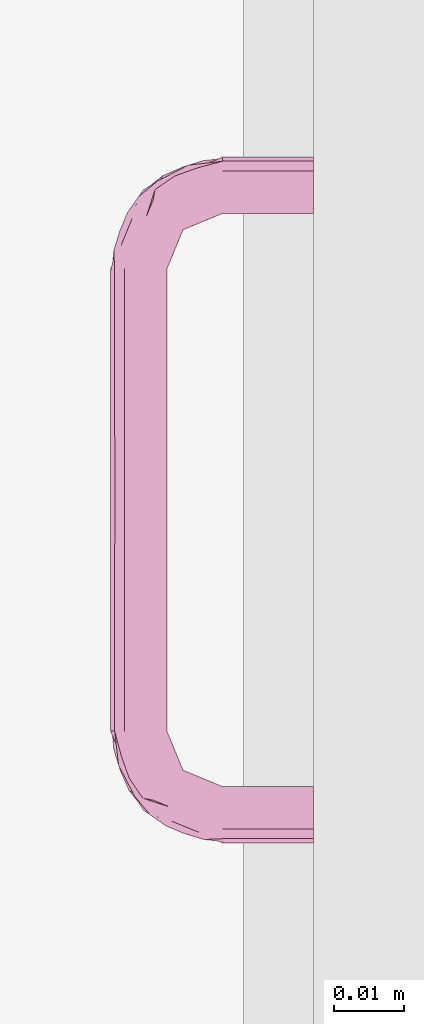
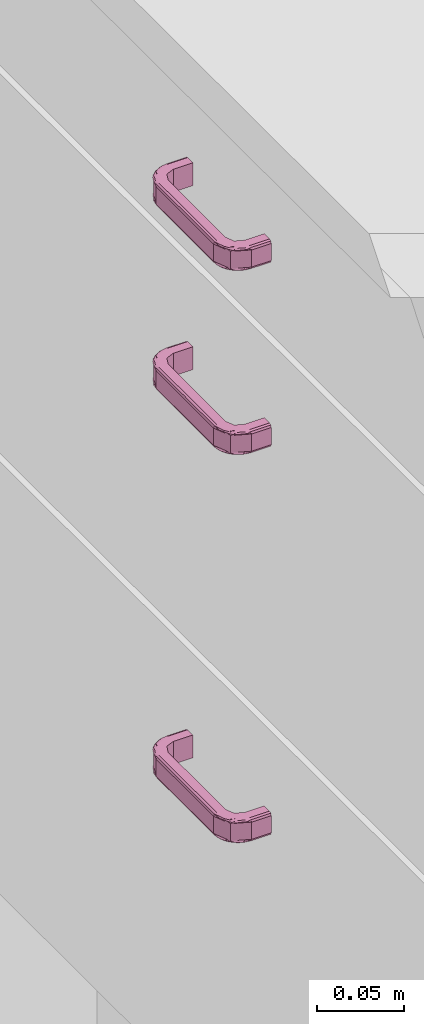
# One storey, part 59 of 65: 3 furnishings.
"""IFC2X3 building model written with IfcOpenShell, lengths in millimetres."""

from ifc_helpers import new_model, entity, si_unit, converted_unit, direction, frame, origin, place, context, subcontext, project, spatial, faceted_brep, source, transform, mapped, material, type_object, type_shapes, element, save


model = new_model("IFC2X3")

# Units and contexts
model_context = context("Model", 3, precision=0.01, world=origin(), true_north=direction((0.0, 1.0)))
body_context = subcontext(model_context, "Body", "Model", "MODEL_VIEW")
ifc_project = project(units=[si_unit("LENGTHUNIT", "METRE", prefix="MILLI"), si_unit("AREAUNIT", "SQUARE_METRE"), si_unit("VOLUMEUNIT", "CUBIC_METRE"), converted_unit("PLANEANGLEUNIT", "DEGREE", entity("IfcPlaneAngleMeasure", 0.017453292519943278), si_unit("PLANEANGLEUNIT", "RADIAN"), dimensions=[0, 0, 0, 0, 0, 0, 0])], contexts=[model_context])

# Site, building, storey, space
site_placement = place(None, origin())
site = spatial("IfcSite", under=ifc_project, at=site_placement, Name="Default", CompositionType="ELEMENT")
building_placement = place(site_placement, origin())
building = spatial("IfcBuilding", under=site, at=building_placement, CompositionType="ELEMENT")
storey_placement = place(building_placement, origin())
storey = spatial("IfcBuildingStorey", under=building, at=storey_placement, Name="Et. 1", CompositionType="ELEMENT", Elevation=0.0)
space_placement = place(storey_placement, origin())
space = spatial("IfcSpace", under=storey, at=space_placement, Name="113", CompositionType="ELEMENT", InteriorOrExteriorSpace="INTERNAL")

# Furnishings
ifc_material = material(Name="Focus - Kjøkken - Håndtak")
furniture_type = type_object("IfcFurnitureType", Name="Focus - Håndtak Skuff:Håndtak skuff", AssemblyPlace="NOTDEFINED", material=ifc_material)
shared_shape = source(origin(), body_context, "Body", "Brep", [
    faceted_brep([(-49.01997065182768, 0.0, -6.018434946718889), (-49.02222703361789, 0.0, 5.981564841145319), (-48.436706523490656, 0.0, 7.395888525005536), (-47.022603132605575, 0.0, 7.981940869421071), (-40.98040382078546, 0.0, 7.983076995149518), (-40.97739531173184, 0.0, -8.0169227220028), (-47.01959462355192, 0.0, -8.018058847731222), (-48.433918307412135, 0.0, -7.432538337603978), (47.022603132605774, 0.0, -8.000375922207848), (40.980403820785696, 0.0, -8.001512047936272), (40.97739531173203, 0.0, 7.9984876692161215), (47.01959462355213, 0.0, 7.999623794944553), (48.43391830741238, 0.0, 7.414103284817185), (49.01997065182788, 0.0, 5.999999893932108), (49.02222703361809, 0.0, -5.9999998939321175), (48.436706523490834, 0.0, -7.414323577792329), (-49.02222703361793, -13.0, 5.981564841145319), (-48.43670652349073, -13.0, 7.395888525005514), (-47.72965482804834, -13.0, 7.688914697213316), (-47.022603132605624, -13.0, 7.981940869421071), (-45.53091023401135, -16.601265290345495, 7.982221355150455), (-44.22341420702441, -19.757839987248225, 7.982467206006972), (-42.91591818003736, -22.91441468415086, 7.9827130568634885), (-40.437314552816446, -23.941085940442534, 7.983179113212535), (-37.95871092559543, -24.967757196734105, 7.983645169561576), (-35.48010729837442, -25.99442845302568, 7.9841112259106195), (-33.0015036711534, -27.02109970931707, 7.984577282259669), (-20.656464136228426, -27.021099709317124, 7.9868985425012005), (-8.311424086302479, -27.02109970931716, 7.989219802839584), (2.0160558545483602, -27.02109970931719, 7.991161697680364), (12.343535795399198, -27.02109970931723, 7.993103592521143), (20.653455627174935, -27.02109970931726, 7.9946661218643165), (32.9984951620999, -27.021099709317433, 7.996987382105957), (36.599760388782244, -25.529406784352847, 7.997664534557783), (39.75633502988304, -24.221910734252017, 7.9982580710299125), (42.912909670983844, -22.914414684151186, 7.998851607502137), (43.939580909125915, -20.435811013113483, 7.9990446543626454), (44.966252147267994, -17.957207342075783, 7.999237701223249), (45.99292338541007, -15.478603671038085, 7.999430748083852), (47.01959462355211, -13.0, 7.9996237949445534), (40.97739531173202, -13.0, 7.998487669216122), (38.64042956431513, -18.64193450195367, 7.998048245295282), (32.998495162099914, -20.97890029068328, 7.996987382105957), (-33.00150367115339, -20.978900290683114, 7.984577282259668), (-38.64343807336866, -18.64193450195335, 7.983516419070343), (-40.980403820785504, -13.0, 7.983076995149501), (-40.97739531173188, -13.0, -8.016922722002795), (47.022603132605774, -13.0, -8.000375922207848), (45.53091021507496, -16.601265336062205, -8.000656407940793), (44.2234141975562, -19.757840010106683, -8.000902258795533), (42.915918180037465, -22.914414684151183, -8.001148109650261), (40.43731455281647, -23.941085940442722, -8.001614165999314), (37.95871092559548, -24.967757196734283, -8.002080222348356), (35.4801072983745, -25.994428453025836, -8.002546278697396), (33.00150367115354, -27.021099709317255, -8.003012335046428), (20.656463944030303, -27.021099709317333, -8.005333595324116), (10.32898409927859, -27.02109970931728, -8.007275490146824), (0.0015042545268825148, -27.021099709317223, -8.009217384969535), (-10.325975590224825, -27.021099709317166, -8.011159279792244), (-20.653455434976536, -27.02109970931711, -8.013101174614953), (-32.998495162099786, -27.021099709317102, -8.01542243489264), (-36.599760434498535, -25.52940676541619, -8.016099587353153), (-39.75633505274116, -24.221910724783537, -8.016693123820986), (-42.91290967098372, -22.91441468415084, -8.017286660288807), (-43.939580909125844, -20.435811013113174, -8.01747970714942), (-44.966252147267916, -17.957207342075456, -8.017672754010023), (-45.992923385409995, -15.478603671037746, -8.017865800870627), (-47.01959462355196, -13.0, -8.01805884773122), (-38.64042956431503, -18.64193450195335, -8.01648329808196), (-32.99849516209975, -20.97890029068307, -8.01542243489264), (33.001503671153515, -20.978900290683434, -8.003012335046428), (38.64343807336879, -18.641934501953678, -8.00195147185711), (40.980403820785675, -13.0, -8.001512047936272), (-48.4339183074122, -13.0, -7.4325383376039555), (-48.80321719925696, -13.0, -6.541445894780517), (-49.0199706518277, -13.0, -6.018434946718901), (-44.41297448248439, -22.641402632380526, 7.75925959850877), (-46.35897290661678, -19.75591674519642, 7.743265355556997), (-40.20740985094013, -25.95405539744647, 7.81524837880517), (-44.3297556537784, -24.328628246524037, 5.9824471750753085), (-42.26670687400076, -25.1831710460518, 5.982835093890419), (-43.381530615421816, -25.002953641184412, 6.747992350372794), (-46.0388412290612, -20.202530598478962, 5.982125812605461), (-45.57655804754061, -22.341444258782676, 7.121035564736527), (-47.86558988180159, -17.923500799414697, 7.130313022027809), (-38.60103139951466, -27.651919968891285, 7.092454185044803), (-40.20365809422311, -26.037713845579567, 5.98322301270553), (-38.66544163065, -26.674863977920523, 5.983512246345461), (-36.60239285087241, -27.529406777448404, 5.983900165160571), (-41.08758750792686, -26.597477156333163, 6.856637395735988), (-41.49759864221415, -25.501746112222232, 5.982979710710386), (-36.52529670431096, -27.454202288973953, 7.791261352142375), (-47.50416098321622, -16.529274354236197, 7.765454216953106), (-47.530534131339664, -16.601265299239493, 5.981845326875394), (-42.18138620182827, -25.408731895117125, 7.397064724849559), (-45.50287349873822, -21.49647118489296, 5.982226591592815), (-33.00122595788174, -28.80444460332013, 6.5076290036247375), (-35.69791310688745, -28.538770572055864, 6.952460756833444), (-35.83328461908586, -27.847981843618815, 5.984044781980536), (-33.00112760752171, -29.021099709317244, 5.984577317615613), (-33.001393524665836, -28.435313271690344, 7.398790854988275), (-46.675991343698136, -18.66431412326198, 5.98200600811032), (-47.5282777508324, -16.601265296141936, -6.018154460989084), (-47.84685280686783, -15.832157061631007, -6.018214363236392), (-36.527810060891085, -27.502698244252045, -7.799689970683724), (-39.75445657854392, -26.35751445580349, -7.77789246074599), (-47.6505824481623, -18.599695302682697, -7.127107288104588), (-46.03658484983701, -20.202530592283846, -6.017873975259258), (-46.67373496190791, -18.66431412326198, -6.017993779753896), (-47.70896034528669, -16.048754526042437, -7.749127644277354), (-46.59154452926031, -19.340507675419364, -7.762569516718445), (-46.373359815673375, -21.540484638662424, -6.783304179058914), (-45.18204206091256, -22.26557941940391, -6.017713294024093), (-45.500617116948, -21.49647118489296, -6.017773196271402), (-37.92215596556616, -27.864246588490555, -7.16487889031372), (-42.34010114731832, -25.57521654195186, -7.156001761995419), (-40.20140170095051, -26.037713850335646, -6.016776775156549), (-45.407337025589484, -22.179992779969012, -7.431969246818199), (-42.63993947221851, -24.41151305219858, -7.794063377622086), (-44.52051892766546, -23.855367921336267, -6.870601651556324), (-32.998605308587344, -28.43531327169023, -7.429636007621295), (-36.600136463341, -27.529406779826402, -6.016099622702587), (-41.49534226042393, -25.501746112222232, -6.0170200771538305), (-44.327499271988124, -24.32862824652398, -6.017552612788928), (-32.99855023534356, -27.728206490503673, -7.7225292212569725), (-48.53745944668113, -15.696603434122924, -6.986734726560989), (-32.99887122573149, -29.021099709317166, -6.015422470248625), (-38.663185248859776, -26.674863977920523, -6.016487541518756), (-15.492613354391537, -28.43531328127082, 7.402083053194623), (20.6538311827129, -29.021099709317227, 5.994666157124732), (32.99860530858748, -28.435313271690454, 7.4112009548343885), (16.49860559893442, -28.435313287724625, 7.408098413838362), (-3.14758080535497, -28.397558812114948, 7.441176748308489), (32.99855023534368, -27.728206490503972, 7.704094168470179), (32.99887122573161, -29.02109970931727, 5.996987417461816), (-20.65608796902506, -29.0210997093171, 5.986898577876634), (-10.328607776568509, -29.02109970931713, 5.988840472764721), (10.326351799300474, -29.02109970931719, 5.99272426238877), (-0.0011279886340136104, -29.021099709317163, 5.990782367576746), (-15.489824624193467, -28.435313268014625, -7.426343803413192), (-8.308791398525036, -29.02109970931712, -6.010779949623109), (-20.653831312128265, -29.02109970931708, -6.013101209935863), (20.656087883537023, -29.021099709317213, -6.005333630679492), (12.346168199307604, -29.02109970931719, -6.006896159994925), (2.0186884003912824, -29.021099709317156, -6.008838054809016), (16.501393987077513, -28.435313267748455, -7.42032843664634), (33.001393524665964, -28.43531327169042, -7.417225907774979), (33.00122595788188, -28.80444460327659, -6.526064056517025), (33.00112760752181, -29.021099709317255, -6.003012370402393), (-3.1447921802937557, -28.47208571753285, -7.386268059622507), (42.6399395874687, -24.41151297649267, 7.7756283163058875), (39.75445668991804, -26.3575143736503, 7.759457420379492), (45.95258191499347, -20.20593789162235, 7.831449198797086), (44.32749927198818, -24.328628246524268, 5.999117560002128), (45.18204205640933, -22.26557943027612, 5.999278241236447), (45.00168074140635, -23.380259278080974, 6.764611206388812), (40.20140169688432, -26.03771385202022, 5.998341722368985), (42.340101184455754, -25.575216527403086, 7.137566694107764), (37.9221559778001, -27.86424657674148, 7.146443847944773), (47.65058242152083, -18.599695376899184, 7.108672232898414), (46.03658484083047, -20.20253061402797, 5.999438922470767), (46.67373496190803, -18.664314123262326, 5.999558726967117), (47.528277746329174, -16.60126530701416, 5.9997194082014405), (46.596183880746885, -21.08629578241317, 6.8731247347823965), (45.500617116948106, -21.4964711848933, 5.999338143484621), (47.452733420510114, -16.52382932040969, 7.8070518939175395), (36.52781014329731, -27.502698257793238, 7.781254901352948), (36.60013646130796, -27.52940678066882, 5.997664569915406), (45.40733698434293, -22.17999283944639, 7.413534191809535), (41.49534226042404, -25.501746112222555, 5.998585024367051), (48.80321719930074, -13.0, 6.523010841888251), (48.53745943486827, -15.696603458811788, 6.968299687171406), (47.84685280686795, -15.832157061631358, 5.999779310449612), (49.01997065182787, -13.0, 5.999999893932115), (48.43391830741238, -13.0, 7.414103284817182), (38.66318524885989, -26.674863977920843, 5.998052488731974), (36.60239284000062, -27.52940678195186, -6.002335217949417), (35.83328461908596, -27.847981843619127, -6.002479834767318), (47.504160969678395, -16.529274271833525, -7.783889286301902), (46.35897298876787, -19.755916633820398, -7.761700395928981), (38.60103132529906, -27.651919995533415, -7.110889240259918), (40.20365807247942, -26.037713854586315, -6.00165806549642), (38.66544163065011, -26.67486397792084, -6.001947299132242), (36.050207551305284, -27.710414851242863, -7.733378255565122), (39.34196320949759, -26.593001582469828, -7.746411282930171), (41.54175600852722, -26.374632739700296, -6.766773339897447), (42.26670686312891, -25.183171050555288, -6.001270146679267), (41.49759864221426, -25.501746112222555, -6.001414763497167), (47.86558989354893, -17.923500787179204, -7.148748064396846), (45.57655806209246, -22.341444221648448, -7.139470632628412), (46.03884122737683, -20.20253060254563, -6.000560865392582), (42.18138614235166, -25.408731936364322, -7.415499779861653), (44.412974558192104, -22.64140251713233, -7.777694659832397), (43.85665573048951, -24.521808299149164, -6.85398393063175), (48.436706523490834, -13.0, -7.414323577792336), (47.530534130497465, -16.601265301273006, -6.000280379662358), (45.50287349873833, -21.496471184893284, -6.000661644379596), (44.3297556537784, -24.32862824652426, -6.000882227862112), (47.729654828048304, -13.0, -7.707349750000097), (35.697913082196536, -28.538770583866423, -6.9708957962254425), (49.02222703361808, -13.0, -5.999999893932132), (46.675991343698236, -18.6643141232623, -6.000441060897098)], [[[0, 1, 2, 3, 4, 5, 6, 7]], [[8, 9, 10, 11, 12, 13, 14, 15]], [[16, 17, 2, 1]], [[2, 17, 18, 19, 3]], [[4, 3, 19, 20, 21, 22, 23, 24, 25, 26, 27, 28, 29, 30, 31, 32, 33, 34, 35, 36, 37, 38, 39, 11, 10, 40, 41, 42, 43, 44, 45]], [[5, 4, 45, 46]], [[9, 8, 47, 48, 49, 50, 51, 52, 53, 54, 55, 56, 57, 58, 59, 60, 61, 62, 63, 64, 65, 66, 67, 6, 5, 46, 68, 69, 70, 71, 72]], [[67, 73, 7, 6]], [[7, 73, 74, 75, 0]], [[1, 0, 75, 16]], [[76, 21, 77]], [[78, 24, 23]], [[79, 80, 81]], [[82, 83, 84]], [[85, 86, 87, 88]], [[89, 80, 90, 86]], [[91, 24, 78]], [[92, 77, 20]], [[17, 93, 84]], [[94, 89, 85]], [[83, 82, 95, 79]], [[88, 96, 97]], [[77, 84, 83]], [[23, 76, 78]], [[89, 94, 81]], [[22, 76, 23]], [[92, 17, 84]], [[19, 18, 17, 92]], [[96, 88, 98, 99]], [[100, 26, 91]], [[76, 77, 83]], [[20, 19, 92]], [[94, 76, 83]], [[21, 76, 22]], [[21, 20, 77]], [[84, 77, 92]], [[93, 17, 16]], [[84, 93, 101, 82]], [[94, 83, 81]], [[83, 79, 81]], [[80, 89, 81]], [[86, 85, 89]], [[76, 94, 78]], [[94, 85, 78]], [[91, 78, 85]], [[85, 97, 91]], [[91, 26, 25, 24]], [[97, 96, 100]], [[91, 97, 100]], [[88, 97, 85]], [[44, 68, 46, 45]], [[43, 69, 68, 44]], [[74, 102, 103, 75]], [[104, 105, 61]], [[106, 107, 108, 102]], [[109, 110, 106]], [[111, 112, 113, 107]], [[105, 114, 115]], [[115, 114, 116]], [[110, 64, 117]], [[118, 62, 105]], [[106, 110, 117]], [[117, 119, 111]], [[120, 121, 114]], [[115, 116, 122, 123]], [[112, 111, 119]], [[111, 106, 117]], [[63, 118, 64]], [[104, 120, 114]], [[60, 124, 120, 104]], [[109, 125, 73]], [[125, 109, 106]], [[118, 105, 115]], [[61, 60, 104]], [[118, 115, 119]], [[62, 118, 63]], [[62, 61, 105]], [[114, 105, 104]], [[121, 120, 126]], [[114, 121, 127, 116]], [[106, 111, 107]], [[118, 119, 117]], [[115, 123, 119]], [[112, 119, 123]], [[64, 118, 117]], [[125, 74, 73]], [[102, 74, 125]], [[102, 125, 106]], [[73, 67, 109]], [[66, 65, 64, 110]], [[110, 109, 66]], [[109, 67, 66]], [[122, 116, 127, 121, 126, 99, 98, 88, 87, 86, 90, 80, 79, 123]], [[79, 95, 82, 101, 93, 16, 75, 103, 102, 108, 107, 113, 112, 123]], [[128, 27, 100]], [[129, 130, 131]], [[29, 132, 131]], [[31, 130, 133, 32]], [[27, 26, 100]], [[129, 134, 130]], [[135, 100, 96, 99]], [[128, 100, 135, 136]], [[31, 30, 29, 131]], [[136, 132, 128]], [[31, 131, 130]], [[28, 27, 128]], [[132, 137, 131]], [[28, 132, 29]], [[136, 138, 137, 132]], [[28, 128, 132]], [[137, 129, 131]], [[69, 43, 42, 70]], [[139, 140, 141, 126, 120]], [[142, 143, 144, 145, 146, 147, 148]], [[55, 146, 145, 56]], [[139, 59, 58]], [[144, 149, 145]], [[55, 54, 146]], [[139, 120, 124, 60, 59]], [[58, 149, 139]], [[149, 56, 145]], [[140, 149, 144]], [[58, 57, 56, 149]], [[140, 139, 149]], [[126, 141, 140, 144, 143, 142, 148, 134, 129, 137, 138, 136, 135, 99]], [[150, 34, 151]], [[152, 37, 36]], [[153, 154, 155]], [[156, 157, 158]], [[159, 160, 161, 162]], [[163, 154, 164, 160]], [[165, 37, 152]], [[166, 151, 33]], [[130, 167, 158]], [[168, 163, 159]], [[157, 156, 169, 153]], [[162, 170, 171]], [[151, 158, 157]], [[36, 150, 152]], [[163, 168, 155]], [[35, 150, 36]], [[166, 130, 158]], [[32, 133, 130, 166]], [[170, 162, 172, 173]], [[174, 39, 165]], [[150, 151, 157]], [[33, 32, 166]], [[168, 150, 157]], [[34, 150, 35]], [[34, 33, 151]], [[158, 151, 166]], [[167, 130, 134]], [[158, 167, 175, 156]], [[168, 157, 155]], [[157, 153, 155]], [[154, 163, 155]], [[160, 159, 163]], [[150, 168, 152]], [[168, 159, 152]], [[165, 152, 159]], [[159, 171, 165]], [[165, 39, 38, 37]], [[171, 170, 174]], [[165, 171, 174]], [[162, 171, 159]], [[41, 71, 70, 42]], [[40, 72, 71, 41]], [[147, 176, 177, 148]], [[178, 179, 48]], [[180, 181, 182, 176]], [[183, 184, 180]], [[185, 186, 187, 181]], [[179, 188, 189]], [[189, 188, 190]], [[184, 51, 191]], [[192, 49, 179]], [[180, 184, 191]], [[191, 193, 185]], [[194, 195, 188]], [[189, 190, 196, 197]], [[186, 185, 193]], [[193, 191, 192]], [[50, 192, 51]], [[178, 194, 188]], [[47, 198, 194, 178]], [[183, 199, 146]], [[199, 183, 180]], [[192, 179, 189]], [[48, 47, 178]], [[192, 189, 193]], [[49, 192, 50]], [[49, 48, 179]], [[188, 179, 178]], [[195, 194, 200]], [[188, 195, 201, 190]], [[181, 180, 185]], [[180, 191, 185]], [[189, 197, 193]], [[186, 193, 197]], [[51, 192, 191]], [[199, 147, 146]], [[176, 147, 199]], [[176, 199, 180]], [[146, 54, 183]], [[53, 52, 51, 184]], [[184, 183, 53]], [[183, 54, 53]], [[196, 190, 201, 195, 200, 173, 172, 162, 161, 160, 164, 154, 153, 197]], [[153, 169, 156, 175, 167, 134, 148, 177, 176, 182, 181, 187, 186, 197]], [[13, 12, 174, 170, 173]], [[174, 12, 11, 39]], [[72, 40, 10, 9]], [[8, 15, 194, 198, 47]], [[194, 15, 14, 200]], [[173, 200, 14, 13]]]),
])
type_shapes(furniture_type, [shared_shape])
for number, where, z_axis, x_axis, name in (
    (1, (33329.00958675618, 10856.058719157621, 805.0), (0.0, 0.0, 1.0), (0.0, -1.0, 0.0), "Focus - Håndtak Skuff:Håndtak skuff"),
    (2, (33329.00958675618, 10856.058719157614, 676.0), (0.0, 0.0, 1.0), (0.0, -1.0, 0.0), "Focus - Håndtak Skuff:Håndtak skuff"),
    (3, (33329.00958675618, 10856.05871915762, 404.0), (0.0, 0.0, 1.0), (0.0, -1.0, 0.0), "Focus - Håndtak Skuff:Håndtak skuff"),
):
    element("IfcFurnishingElement", number, at=place(space_placement, frame(where, z_axis=z_axis, x_axis=x_axis)), inside=space, type_object=furniture_type, material=ifc_material, Name=name, context=body_context, shape_type="MappedRepresentation", body=[
        mapped(shared_shape, transform((0.0, 0.0, 0.0), scale=1.0)),
    ])

save(model, "model.ifc")
